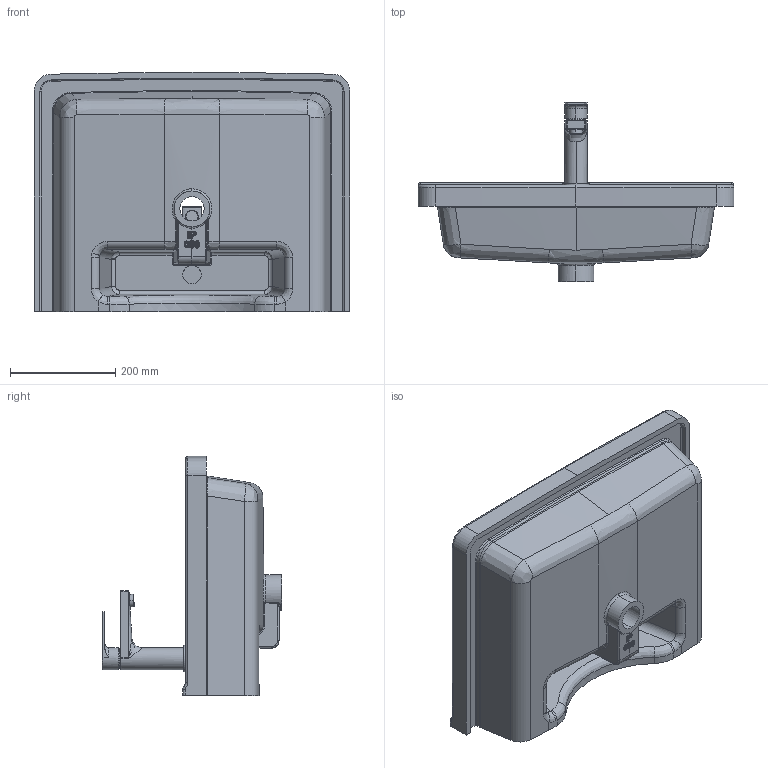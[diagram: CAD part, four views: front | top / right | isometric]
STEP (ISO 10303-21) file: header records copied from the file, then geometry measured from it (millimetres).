
FILE_DESCRIPTION (( 'STEP AP203' ), '1' );
FILE_NAME ('IP060 72 pah. TASMA KANALLISLDPRT.STEP', '2022-10-27T08:44:51', ( '' ), ( '' ), 'SwSTEP 2.0', 'SolidWorks 2021', '' );
FILE_SCHEMA (( 'CONFIG_CONTROL_DESIGN' ));
Length unit declared in the file: millimetre
Products named in the file (1): IP060 72 pah. TASMA KANALLISLDPRT
Bounding box: 600 x 340.64 x 454 mm (x, y, z)
Volume: 11060954.7 mm3; surface area: 1108151.2 mm2
Topology: 8 solids, 9 shells, 560 faces, 1306 edges, 746 vertices
Faces by surface type: bspline 225, cylinder 155, plane 102, torus 47, sphere 21, cone 10
Entity records: 35878 total; most frequent: CARTESIAN_POINT 24849, ORIENTED_EDGE 2560, DIRECTION 1896, EDGE_CURVE 1280, AXIS2_PLACEMENT_3D 747, VERTEX_POINT 746, EDGE_LOOP 574, FACE_OUTER_BOUND 560
